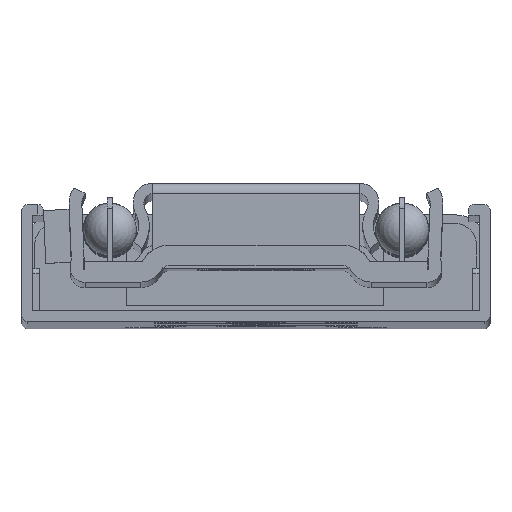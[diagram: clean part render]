
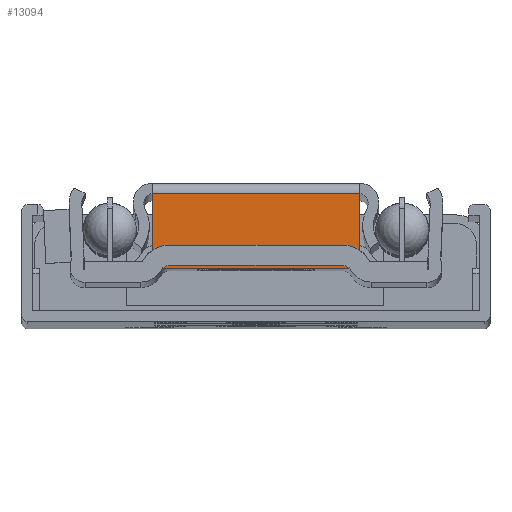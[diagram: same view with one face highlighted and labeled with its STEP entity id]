
A CAD part, top view. The second image highlights one B-rep face of the part: STEP entity #13094.
In plain terms, the highlighted planar face has unit normal (0, 0, 1).
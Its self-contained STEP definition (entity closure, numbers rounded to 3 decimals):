
#602=PLANE('',#14316);
#1239=FACE_OUTER_BOUND('',#2008,.T.);
#2008=EDGE_LOOP('',(#11882,#11883,#11884,#11885,#11886,#11887));
#3302=LINE('',#21924,#4620);
#3303=LINE('',#21927,#4621);
#3304=LINE('',#21931,#4622);
#3305=LINE('',#21934,#4623);
#4620=VECTOR('',#17905,10.);
#4621=VECTOR('',#17908,10.);
#4622=VECTOR('',#17911,10.);
#4623=VECTOR('',#17914,10.);
#5240=CIRCLE('',#14317,1.);
#5241=CIRCLE('',#14318,1.);
#6439=VERTEX_POINT('',#21917);
#6442=VERTEX_POINT('',#21922);
#6443=VERTEX_POINT('',#21926);
#6444=VERTEX_POINT('',#21928);
#6445=VERTEX_POINT('',#21930);
#6446=VERTEX_POINT('',#21932);
#8298=EDGE_CURVE('',#6442,#6439,#3302,.T.);
#8299=EDGE_CURVE('',#6442,#6443,#3303,.T.);
#8300=EDGE_CURVE('',#6444,#6443,#5240,.T.);
#8301=EDGE_CURVE('',#6444,#6445,#3304,.T.);
#8302=EDGE_CURVE('',#6446,#6445,#5241,.T.);
#8303=EDGE_CURVE('',#6439,#6446,#3305,.T.);
#11882=ORIENTED_EDGE('',*,*,#8298,.F.);
#11883=ORIENTED_EDGE('',*,*,#8299,.T.);
#11884=ORIENTED_EDGE('',*,*,#8300,.F.);
#11885=ORIENTED_EDGE('',*,*,#8301,.T.);
#11886=ORIENTED_EDGE('',*,*,#8302,.F.);
#11887=ORIENTED_EDGE('',*,*,#8303,.F.);
#13094=ADVANCED_FACE('',(#1239),#602,.T.);
#14316=AXIS2_PLACEMENT_3D('',#21925,#17906,#17907);
#14317=AXIS2_PLACEMENT_3D('',#21929,#17909,#17910);
#14318=AXIS2_PLACEMENT_3D('',#21933,#17912,#17913);
#17905=DIRECTION('',(-1.,0.,0.));
#17906=DIRECTION('center_axis',(0.,0.,1.));
#17907=DIRECTION('ref_axis',(1.,0.,0.));
#17908=DIRECTION('',(0.,1.,0.));
#17909=DIRECTION('center_axis',(0.,0.,-1.));
#17910=DIRECTION('ref_axis',(0.707,0.707,0.));
#17911=DIRECTION('',(-1.,0.,0.));
#17912=DIRECTION('center_axis',(0.,0.,-1.));
#17913=DIRECTION('ref_axis',(-0.707,0.707,0.));
#17914=DIRECTION('',(0.,1.,0.));
#21917=CARTESIAN_POINT('',(4.892,-4.95,399.));
#21922=CARTESIAN_POINT('',(24.354,-4.95,399.));
#21924=CARTESIAN_POINT('',(19.501,-4.95,399.));
#21925=CARTESIAN_POINT('Origin',(24.354,-5.95,399.));
#21926=CARTESIAN_POINT('',(24.354,1.05,399.));
#21927=CARTESIAN_POINT('',(24.354,-5.95,399.));
#21928=CARTESIAN_POINT('',(23.354,2.05,399.));
#21929=CARTESIAN_POINT('Origin',(23.354,1.05,399.));
#21930=CARTESIAN_POINT('',(5.892,2.05,399.));
#21931=CARTESIAN_POINT('',(24.354,2.05,399.));
#21932=CARTESIAN_POINT('',(4.892,1.05,399.));
#21933=CARTESIAN_POINT('Origin',(5.892,1.05,399.));
#21934=CARTESIAN_POINT('',(4.892,-5.95,399.));
